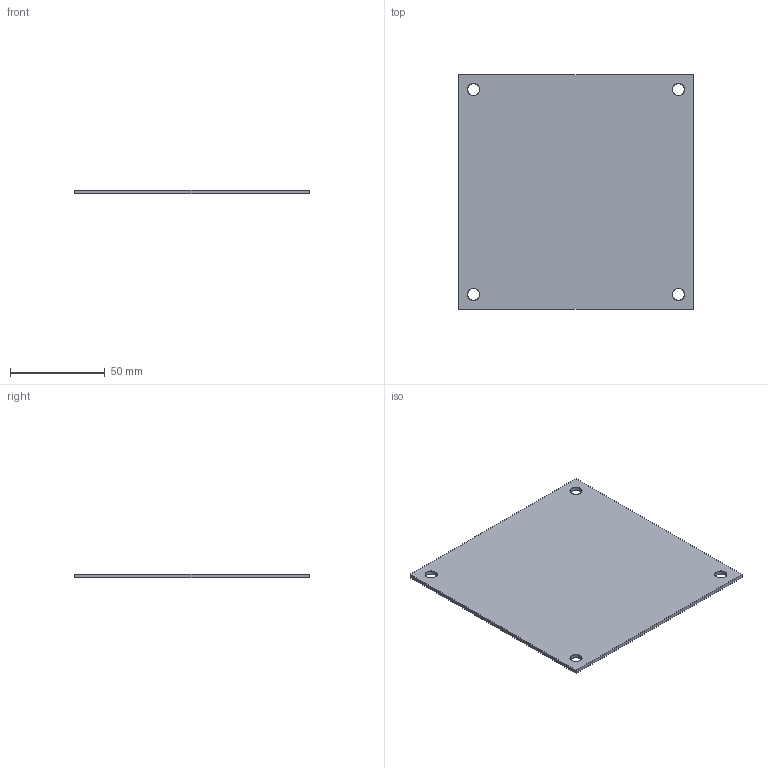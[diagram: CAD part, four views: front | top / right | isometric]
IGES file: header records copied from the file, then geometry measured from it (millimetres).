
Start section: SolidWorks IGES file using analytic representation for surfaces
Global section: file name: G:\3DRAW\ARCA\3DCAM\Solidpart\FIBOX_ABP66.IGS; native system: SolidWorks 2009; preprocessor: SolidWorks 2009; author: KennethW; date: 100308.094722; units: millimetre
Bounding box: 124 x 124 x 2 mm (x, y, z)
Surface area: 31650.2 mm2 (no closed solid volume)
Topology: 0 solids, 0 shells, 14 faces, 312 edges, 312 vertices
Faces by surface type: revolution 8, bspline 6
